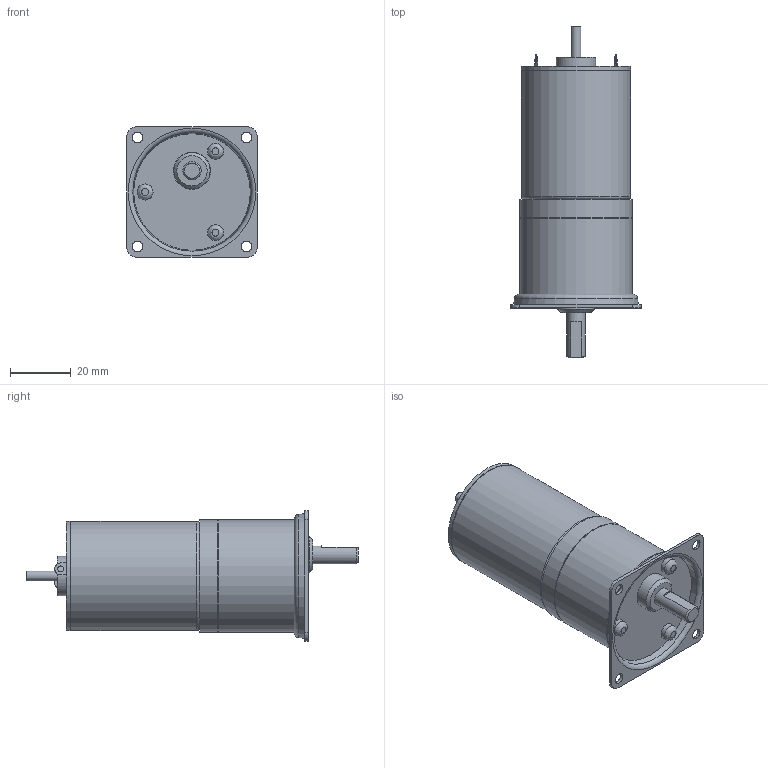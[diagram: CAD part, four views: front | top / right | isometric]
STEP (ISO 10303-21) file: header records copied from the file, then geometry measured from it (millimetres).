
FILE_DESCRIPTION((''),'2;1');
FILE_NAME('C:\Documents and Settings\SSEGAWA\デスクトップ\TP-3644L-PHM-5.STP','2013-07-26T18:53:36',('SSEGAWA'),(''),'Autodesk Inventor 2010','Autodesk Inventor 2010','');
FILE_SCHEMA(('CONFIG_CONTROL_DESIGN'));
Length unit declared in the file: millimetre
Products named in the file (1): tp_3644l_phm_5_Shrinkwrap_1
Bounding box: 43 x 109.6 x 43 mm (x, y, z)
Volume: 81849.2 mm3; surface area: 15134.8 mm2
Topology: 1 solids, 9 shells, 100 faces, 208 edges, 139 vertices
Faces by surface type: plane 43, cylinder 26, bspline 23, torus 4, cone 4
Full cylindrical faces by diameter (mm): 3 x1, 3.175 x1, 3.5 x1, 5.3 x3, 6 x1, 12 x1, 12.2 x1, 13 x1, 35.6 x1, 36 x2, 36.6 x1, 37 x2
Entity records: 2756 total; most frequent: CARTESIAN_POINT 828, DIRECTION 383, ORIENTED_EDGE 274, EDGE_LOOP 171, AXIS2_PLACEMENT_3D 170, EDGE_CURVE 137, VERTEX_POINT 114, STYLED_ITEM 101
